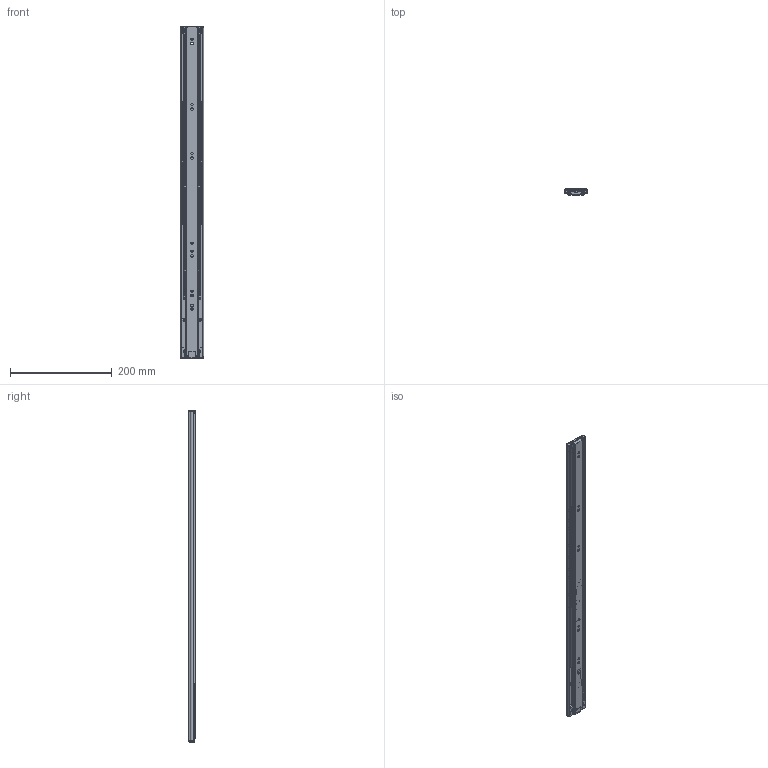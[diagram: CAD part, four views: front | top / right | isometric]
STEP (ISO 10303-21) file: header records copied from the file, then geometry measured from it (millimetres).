
FILE_DESCRIPTION((''),'2;1');
FILE_NAME('C:\Users\Jennes.SOLINGEN\Desktop\Melches\NeueFormate\TS 454613-650 SC\TS 454613 - 650mm SC.stp','2011-01-20T11:38:59',('jennes'),(''),'Autodesk Inventor 2010','Autodesk Inventor 2010','');
FILE_SCHEMA(('AUTOMOTIVE_DESIGN { 1 0 10303 214 1 1 1 1 }'));
Length unit declared in the file: millimetre
Products named in the file (24): TS 454613 - 650mm SC; Schiene gross 650; Endkappe Schiene gross; Softclose; Führung für Schieber; Gummi Puffer; Schieber; Riegel; Zylinderkolben; Zylinderstange; Kugelkäfigleiste 650; Kugel 4,75mm; Schiene mittig 650; Endkappe Schiene mittig; Kugelkäfig 650; Schiene schmall 650; Niete; Schliesser; Sicherung
Assembly tree (75 placements, depth 4):
  TS 454613 - 650mm SC
    Schiene gross 650
      Schiene gross 650
      Endkappe Schiene gross
      Softclose
        Führung für Schieber
        Gummi Puffer
        Schieber
        Riegel
        Zylinderkolben
        Zylinderstange
    Kugelkäfigleiste 650  x2
      Kugelkäfigleiste 650
      Kugel 4,75mm
    Schiene mittig 650
      Schiene mittig 650
      Endkappe Schiene mittig
    Kugelkäfig 650
      Kugelkäfig 650
      Kugel 4,75mm  x40
    Schiene schmall 650
      Schiene schmall 650
      Niete  x2
      Schliesser
      Sicherung
Bounding box: 45.98 x 12.5 x 651.1 mm (x, y, z)
Volume: 147658.5 mm3; surface area: 236883.3 mm2
Topology: 81 solids, 81 shells, 1983 faces, 5915 edges, 3799 vertices
Faces by surface type: plane 1109, cylinder 691, sphere 86, torus 49, bspline 48
Full cylindrical faces by diameter (mm): 1.15 x1, 1.78 x2, 1.8 x1, 2.35 x2, 2.45 x1, 3 x2, 3.3 x2, 4.2 x2, 4.4 x5, 4.6 x7, 4.95 x22, 5 x4, 5.3 x1, 5.4 x1, 6.4 x5, 7.8 x2, 9 x1, 9.3 x1, 9.55 x1, 11 x10
Entity records: 65131 total; most frequent: CARTESIAN_POINT 13376, ORIENTED_EDGE 10868, DIRECTION 10509, EDGE_CURVE 5434, VECTOR 3953, LINE 3953, VERTEX_POINT 3558, AXIS2_PLACEMENT_3D 3278
